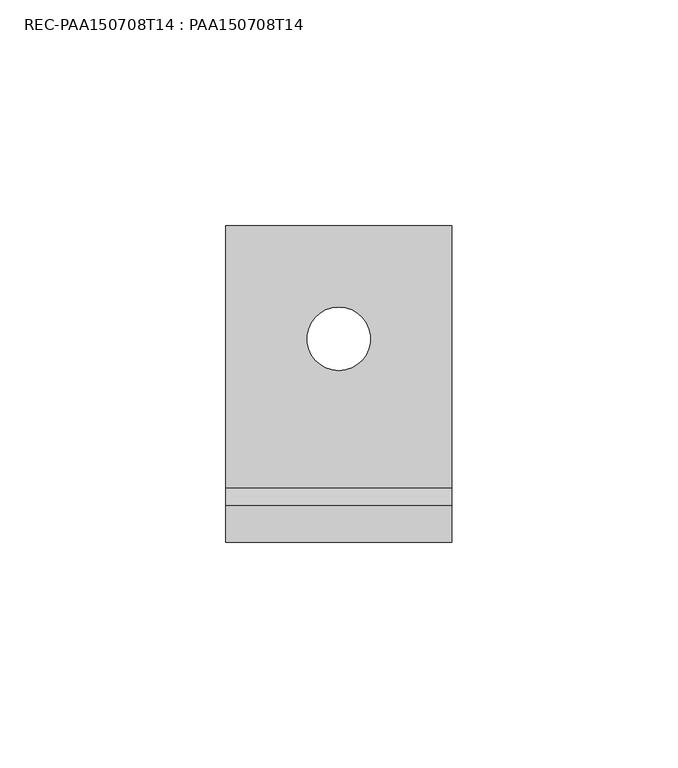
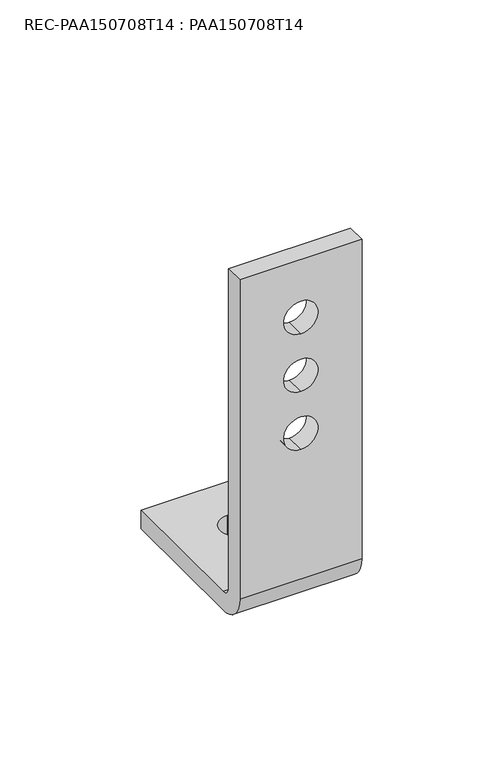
"""IFC4 building model written with IfcOpenShell, lengths in millimetres: fastener geometry, REC-PAA150708T14 : PAA150708T14."""

from ifc_helpers import new_model, si_unit, frame, origin, place, context, project, spatial, polyline, circle_curve, source, transform, mapped, element, save
from ifc_brep_helpers import plane_surface, cylinder_surface, revolved_surface, advanced_brep


def rec_paa150708t14_paa150708t14_abbbcd53(model_context):
    return source(origin(), model_context, "Body", "AdvancedBrep", [
        advanced_brep(
        [(-25.0, 12.0, 8.0), (-25.0, 70.0, 8.0), (-25.0, 70.0, 0.0), (-25.0, 12.0, 0.0), (-25.0, 0.0, 12.0), (-25.0, 0.0, 150.0), (-25.0, 8.0, 150.0), (-25.0, 8.0, 12.0), (25.0, 12.0, 8.0), (25.0, 8.0, 12.0), (25.0, 8.0, 150.0), (25.0, 0.0, 150.0), (25.0, 0.0, 12.0), (25.0, 12.0, 0.0), (25.0, 70.0, 0.0), (25.0, 70.0, 8.0), (0.0, 52.0, 8.0), (0.0, 38.0, 8.0), (0.0, 38.0, 0.0), (0.0, 52.0, 0.0), (0.0, 0.0, 82.0), (0.0, 0.0, 68.0), (0.0, 0.0, 107.0), (0.0, 0.0, 93.0), (0.0, 0.0, 132.0), (0.0, 0.0, 118.0), (0.0, 8.0, 68.0), (0.0, 8.0, 82.0), (0.0, 8.0, 93.0), (0.0, 8.0, 107.0), (0.0, 8.0, 118.0), (0.0, 8.0, 132.0)],
        [
            (0, 1),
            (1, 2),
            (2, 3),
            (3, 4, circle_curve(frame((-25.0, 12.0, 12.0), z_axis=(-1.0, 0.0, 0.0), x_axis=(0.0, 0.0, 1.0)), 12.0)),
            (4, 5),
            (5, 6),
            (6, 7),
            (7, 0, circle_curve(frame((-25.0, 12.0, 12.0), z_axis=(1.0, 0.0, 0.0), x_axis=(0.0, 0.0, 1.0)), 4.0)),
            (8, 9, circle_curve(frame((25.0, 12.0, 12.0), z_axis=(-1.0, 0.0, 0.0), x_axis=(0.0, 0.0, 1.0)), 4.0)),
            (9, 10),
            (10, 11),
            (11, 12),
            (12, 13, circle_curve(frame((25.0, 12.0, 12.0), z_axis=(1.0, 0.0, 0.0), x_axis=(0.0, 0.0, 1.0)), 12.0)),
            (13, 14),
            (14, 15),
            (15, 8),
            (0, 8),
            (15, 1),
            (16, 17, circle_curve(frame((0.0, 45.0, 8.0), z_axis=(0.0, 0.0, -1.0), x_axis=(0.0, -1.0, 0.0)), 7.0)),
            (17, 16, circle_curve(frame((0.0, 45.0, 8.0), z_axis=(0.0, 0.0, -1.0), x_axis=(0.0, -1.0, 0.0)), 7.0)),
            (14, 2),
            (13, 3),
            (18, 19, circle_curve(frame((0.0, 45.0, 0.0), z_axis=(0.0, 0.0, 1.0), x_axis=(0.0, -1.0, 0.0)), 7.0)),
            (19, 18, circle_curve(frame((0.0, 45.0, 0.0), z_axis=(0.0, 0.0, 1.0), x_axis=(0.0, -1.0, 0.0)), 7.0)),
            (12, 4),
            (11, 5),
            (20, 21, circle_curve(frame((0.0, 0.0, 75.0), z_axis=(0.0, 1.0, 0.0), x_axis=(0.0, 0.0, -1.0)), 7.0)),
            (21, 20, circle_curve(frame((0.0, 0.0, 75.0), z_axis=(0.0, 1.0, 0.0), x_axis=(0.0, 0.0, -1.0)), 7.0)),
            (22, 23, circle_curve(frame((0.0, 0.0, 100.0), z_axis=(0.0, 1.0, 0.0), x_axis=(0.0, 0.0, -1.0)), 7.0)),
            (23, 22, circle_curve(frame((0.0, 0.0, 100.0), z_axis=(0.0, 1.0, 0.0), x_axis=(0.0, 0.0, -1.0)), 7.0)),
            (24, 25, circle_curve(frame((0.0, 0.0, 125.0), z_axis=(0.0, 1.0, 0.0), x_axis=(0.0, 0.0, -1.0)), 7.0)),
            (25, 24, circle_curve(frame((0.0, 0.0, 125.0), z_axis=(0.0, 1.0, 0.0), x_axis=(0.0, 0.0, -1.0)), 7.0)),
            (10, 6),
            (9, 7),
            (26, 27, circle_curve(frame((0.0, 8.0, 75.0), z_axis=(0.0, -1.0, 0.0), x_axis=(0.0, 0.0, -1.0)), 7.0)),
            (27, 26, circle_curve(frame((0.0, 8.0, 75.0), z_axis=(0.0, -1.0, 0.0), x_axis=(0.0, 0.0, -1.0)), 7.0)),
            (28, 29, circle_curve(frame((0.0, 8.0, 100.0), z_axis=(0.0, -1.0, 0.0), x_axis=(0.0, 0.0, -1.0)), 7.0)),
            (29, 28, circle_curve(frame((0.0, 8.0, 100.0), z_axis=(0.0, -1.0, 0.0), x_axis=(0.0, 0.0, -1.0)), 7.0)),
            (30, 31, circle_curve(frame((0.0, 8.0, 125.0), z_axis=(0.0, -1.0, 0.0), x_axis=(0.0, 0.0, -1.0)), 7.0)),
            (31, 30, circle_curve(frame((0.0, 8.0, 125.0), z_axis=(0.0, -1.0, 0.0), x_axis=(0.0, 0.0, -1.0)), 7.0)),
            (16, 19),
            (18, 17),
            (20, 27),
            (26, 21),
            (22, 29),
            (28, 23),
            (24, 31),
            (30, 25),
        ],
        [
            plane_surface(frame((-25.0, 70.0, 8.0), z_axis=(-1.0, 0.0, 0.0), x_axis=(0.0, 1.0, 0.0))),
            plane_surface(frame((25.0, 70.0, 8.0), z_axis=(1.0, 0.0, 0.0), x_axis=(0.0, -1.0, 0.0))),
            plane_surface(frame((-25.0, 12.0, 8.0), z_axis=(0.0, 0.0, 1.0), x_axis=(1.0, 0.0, 0.0))),
            plane_surface(frame((-25.0, 70.0, 8.0), z_axis=(0.0, 1.0, 0.0), x_axis=(1.0, 0.0, 0.0))),
            plane_surface(frame((-25.0, 70.0, 0.0), z_axis=(0.0, 0.0, -1.0), x_axis=(1.0, 0.0, 0.0))),
            cylinder_surface(frame((25.0, 12.0, 12.0), z_axis=(-1.0, 0.0, 0.0), x_axis=(0.0, 0.0, 1.0)), 12.0),
            plane_surface(frame((-25.0, 0.0, 12.0), z_axis=(0.0, -1.0, 0.0), x_axis=(1.0, 0.0, 0.0))),
            plane_surface(frame((-25.0, 0.0, 150.0), z_axis=(0.0, 0.0, 1.0), x_axis=(1.0, 0.0, 0.0))),
            plane_surface(frame((-25.0, 8.0, 150.0), z_axis=(0.0, 1.0, 0.0), x_axis=(1.0, 0.0, 0.0))),
            revolved_surface(polyline([(25.0, 12.0, 16.0), (-25.0, 12.0, 16.0)]), (25.0, 12.0, 12.0), (1.0, 0.0, 0.0)),
            revolved_surface(polyline([(0.0, 38.0, 8.0), (0.0, 38.0, 0.0)]), (0.0, 45.0, 0.0), (0.0, 0.0, 1.0)),
            revolved_surface(polyline([(0.0, 0.0, 68.0), (0.0, 8.0, 68.0)]), (0.0, 8.0, 75.0), (0.0, -1.0, 0.0)),
            revolved_surface(polyline([(0.0, 0.0, 93.0), (0.0, 8.0, 93.0)]), (0.0, 8.0, 100.0), (0.0, -1.0, 0.0)),
            revolved_surface(polyline([(0.0, 0.0, 118.0), (0.0, 8.0, 118.0)]), (0.0, 8.0, 125.0), (0.0, -1.0, 0.0)),
        ],
        [
            (0, [[1, 2, 3, 4, 5, 6, 7, 8]]),
            (1, [[9, 10, 11, 12, 13, 14, 15, 16]]),
            (2, [[-1, 17, -16, 18], [19, 20]]),
            (3, [[-2, -18, -15, 21]]),
            (4, [[-3, -21, -14, 22], [23, 24]]),
            (5, [[-4, -22, -13, 25]]),
            (6, [[-5, -25, -12, 26], [27, 28], [29, 30], [31, 32]]),
            (7, [[-6, -26, -11, 33]]),
            (8, [[-7, -33, -10, 34], [35, 36], [37, 38], [39, 40]]),
            (9, [[-8, -34, -9, -17]]),
            (10, [[41, -23, 42, -19]]),
            (10, [[-41, -20, -42, -24]]),
            (11, [[43, -35, 44, -27]]),
            (11, [[-43, -28, -44, -36]]),
            (12, [[45, -37, 46, -29]]),
            (12, [[-45, -30, -46, -38]]),
            (13, [[47, -39, 48, -31]]),
            (13, [[-47, -32, -48, -40]]),
        ],
    ),
    ])


if __name__ == "__main__":
    model = new_model("IFC4")
    model_context = context("Model", 3, world=origin())
    ifc_project = project(units=[si_unit("LENGTHUNIT", "METRE", prefix="MILLI")], contexts=[model_context])
    site = spatial("IfcSite", under=ifc_project)
    building = spatial("IfcBuilding", under=site)
    placement = place(None, origin())
    rec_paa150708t14_paa150708t14_shape = rec_paa150708t14_paa150708t14_abbbcd53(model_context)
    element("IfcFastener", 1, ObjectType="REC-PAA150708T14 : PAA150708T14", at=placement, inside=building, context=model_context, shape_type="MappedRepresentation", body=[
        mapped(rec_paa150708t14_paa150708t14_shape, transform((0.0, 0.0, 0.0), x_axis=(1.0, 0.0, 0.0), y_axis=(0.0, 1.0, 0.0), z_axis=(0.0, 0.0, 1.0))),
    ])
    save(model, "model.ifc")
